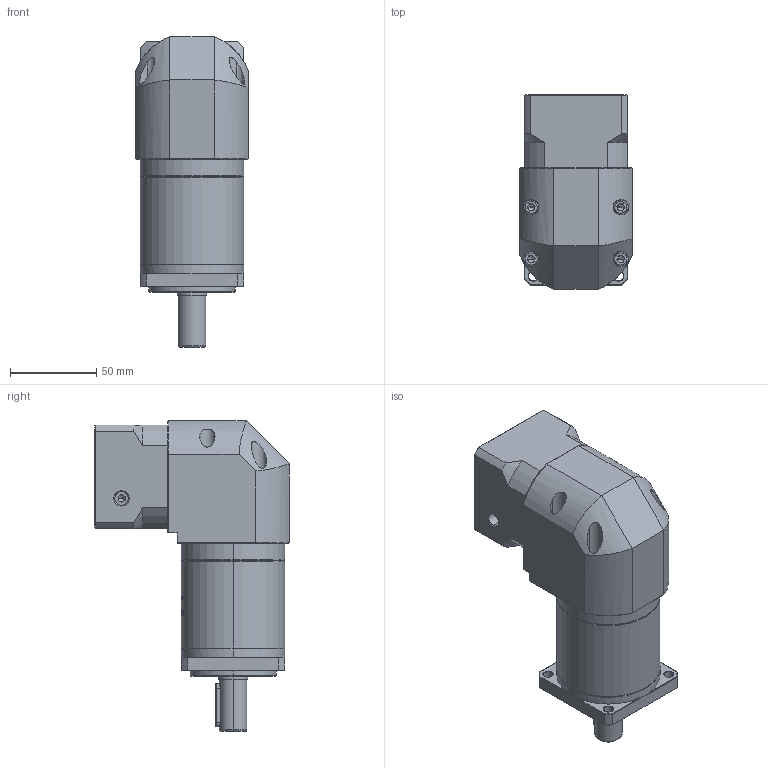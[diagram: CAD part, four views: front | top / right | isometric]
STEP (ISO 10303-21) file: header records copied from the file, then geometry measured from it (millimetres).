
FILE_DESCRIPTION (( 'STEP AP214' ), '1' );
FILE_NAME ('ZFR060-D16-L2-P2-14-50-70-M5.step', '2023-08-17T03:34:57', ( '' ), ( '' ), 'SwSTEP 2.0', 'SolidWorks 2016', '' );
FILE_SCHEMA (( 'AUTOMOTIVE_DESIGN' ));
Length unit declared in the file: millimetre
Products named in the file (1): ZFR060-D16-L2-P2-14-50-70-M5
Bounding box: 65 x 112.7 x 180 mm (x, y, z)
Volume: 587341.2 mm3; surface area: 82007.6 mm2
Topology: 5 solids, 6 shells, 1922 faces, 5125 edges, 3300 vertices
Faces by surface type: plane 847, cylinder 407, bspline 366, cone 290, torus 12
Entity records: 106766 total; most frequent: CARTESIAN_POINT 42012, ORIENTED_EDGE 10206, DIRECTION 7580, EDGE_CURVE 5103, VERTEX_POINT 3300, LINE 2614, VECTOR 2614, AXIS2_PLACEMENT_3D 2483
